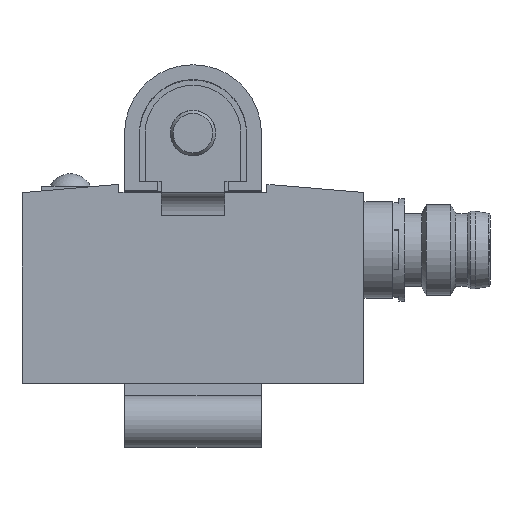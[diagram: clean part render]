
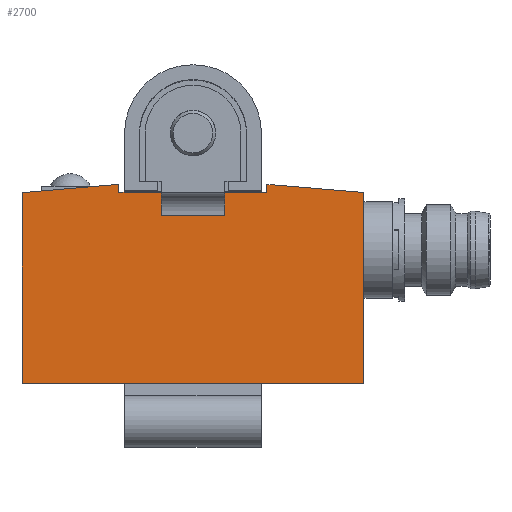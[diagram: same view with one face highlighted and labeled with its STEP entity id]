
A CAD part, top view. The second image highlights one B-rep face of the part: STEP entity #2700.
In plain terms, the highlighted planar face has unit normal (0, 0, 1).
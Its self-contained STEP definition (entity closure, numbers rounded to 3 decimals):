
#2569=CARTESIAN_POINT('',(2.72,14.764,9.23));
#2570=VERTEX_POINT('',#2569);
#2588=CARTESIAN_POINT('',(-2.868,14.764,9.23));
#2589=VERTEX_POINT('',#2588);
#2597=CARTESIAN_POINT('',(-2.868,14.764,9.23));
#2598=DIRECTION('',(1.0,0.0,0.0));
#2599=VECTOR('',#2598,5.588);
#2600=LINE('',#2597,#2599);
#2601=EDGE_CURVE('',#2589,#2570,#2600,.T.);
#2606=CARTESIAN_POINT('',(-0.072,8.582,9.23));
#2607=DIRECTION('',(0.0,0.0,1.0));
#2608=DIRECTION('',(1.0,0.0,0.0));
#2609=AXIS2_PLACEMENT_3D('',#2606,#2607,#2608);
#2610=PLANE('',#2609);
#2611=CARTESIAN_POINT('',(2.72,16.764,9.23));
#2612=VERTEX_POINT('',#2611);
#2613=CARTESIAN_POINT('',(2.72,16.764,9.23));
#2614=DIRECTION('',(0.0,-1.0,0.0));
#2615=VECTOR('',#2614,2.);
#2616=LINE('',#2613,#2615);
#2617=EDGE_CURVE('',#2612,#2570,#2616,.T.);
#2618=ORIENTED_EDGE('',*,*,#2617,.T.);
#2619=ORIENTED_EDGE('',*,*,#2601,.F.);
#2620=CARTESIAN_POINT('',(-2.868,16.764,9.23));
#2621=VERTEX_POINT('',#2620);
#2622=CARTESIAN_POINT('',(-2.868,14.764,9.23));
#2623=DIRECTION('',(0.0,1.0,0.0));
#2624=VECTOR('',#2623,2.);
#2625=LINE('',#2622,#2624);
#2626=EDGE_CURVE('',#2589,#2621,#2625,.T.);
#2627=ORIENTED_EDGE('',*,*,#2626,.T.);
#2628=CARTESIAN_POINT('',(-6.564,16.764,9.23));
#2629=VERTEX_POINT('',#2628);
#2630=CARTESIAN_POINT('',(-6.564,16.764,9.23));
#2631=DIRECTION('',(1.0,0.0,0.0));
#2632=VECTOR('',#2631,3.697);
#2633=LINE('',#2630,#2632);
#2634=EDGE_CURVE('',#2629,#2621,#2633,.T.);
#2635=ORIENTED_EDGE('',*,*,#2634,.F.);
#2636=CARTESIAN_POINT('',(-6.564,17.481,9.23));
#2637=VERTEX_POINT('',#2636);
#2638=CARTESIAN_POINT('',(-6.564,17.481,9.23));
#2639=DIRECTION('',(0.0,-1.0,0.0));
#2640=VECTOR('',#2639,0.717);
#2641=LINE('',#2638,#2640);
#2642=EDGE_CURVE('',#2637,#2629,#2641,.T.);
#2643=ORIENTED_EDGE('',*,*,#2642,.F.);
#2644=CARTESIAN_POINT('',(-15.072,16.753,9.23));
#2645=VERTEX_POINT('',#2644);
#2646=CARTESIAN_POINT('',(-15.072,16.753,9.23));
#2647=DIRECTION('',(0.996,0.085,0.0));
#2648=VECTOR('',#2647,8.539);
#2649=LINE('',#2646,#2648);
#2650=EDGE_CURVE('',#2645,#2637,#2649,.T.);
#2651=ORIENTED_EDGE('',*,*,#2650,.F.);
#2652=CARTESIAN_POINT('',(-15.072,0.0,9.23));
#2653=VERTEX_POINT('',#2652);
#2654=CARTESIAN_POINT('',(-15.072,0.0,9.23));
#2655=DIRECTION('',(0.0,1.0,0.0));
#2656=VECTOR('',#2655,16.753);
#2657=LINE('',#2654,#2656);
#2658=EDGE_CURVE('',#2653,#2645,#2657,.T.);
#2659=ORIENTED_EDGE('',*,*,#2658,.F.);
#2660=CARTESIAN_POINT('',(14.925,0.0,9.23));
#2661=VERTEX_POINT('',#2660);
#2662=CARTESIAN_POINT('',(14.925,0.0,9.23));
#2663=DIRECTION('',(-1.0,0.0,0.0));
#2664=VECTOR('',#2663,29.997);
#2665=LINE('',#2662,#2664);
#2666=EDGE_CURVE('',#2661,#2653,#2665,.T.);
#2667=ORIENTED_EDGE('',*,*,#2666,.F.);
#2668=CARTESIAN_POINT('',(14.925,16.764,9.23));
#2669=VERTEX_POINT('',#2668);
#2670=CARTESIAN_POINT('',(14.925,16.764,9.23));
#2671=DIRECTION('',(0.0,-1.0,0.0));
#2672=VECTOR('',#2671,16.764);
#2673=LINE('',#2670,#2672);
#2674=EDGE_CURVE('',#2669,#2661,#2673,.T.);
#2675=ORIENTED_EDGE('',*,*,#2674,.F.);
#2676=CARTESIAN_POINT('',(6.418,17.481,9.23));
#2677=VERTEX_POINT('',#2676);
#2678=CARTESIAN_POINT('',(6.418,17.481,9.23));
#2679=DIRECTION('',(0.996,-0.084,0.0));
#2680=VECTOR('',#2679,8.538);
#2681=LINE('',#2678,#2680);
#2682=EDGE_CURVE('',#2677,#2669,#2681,.T.);
#2683=ORIENTED_EDGE('',*,*,#2682,.F.);
#2684=CARTESIAN_POINT('',(6.418,16.764,9.23));
#2685=VERTEX_POINT('',#2684);
#2686=CARTESIAN_POINT('',(6.418,16.764,9.23));
#2687=DIRECTION('',(0.0,1.0,0.0));
#2688=VECTOR('',#2687,0.717);
#2689=LINE('',#2686,#2688);
#2690=EDGE_CURVE('',#2685,#2677,#2689,.T.);
#2691=ORIENTED_EDGE('',*,*,#2690,.F.);
#2692=CARTESIAN_POINT('',(2.72,16.764,9.23));
#2693=DIRECTION('',(1.0,0.0,0.0));
#2694=VECTOR('',#2693,3.697);
#2695=LINE('',#2692,#2694);
#2696=EDGE_CURVE('',#2612,#2685,#2695,.T.);
#2697=ORIENTED_EDGE('',*,*,#2696,.F.);
#2698=EDGE_LOOP('',(#2618,#2619,#2627,#2635,#2643,#2651,#2659,#2667,#2675,#2683,#2691,#2697));
#2699=FACE_OUTER_BOUND('',#2698,.T.);
#2700=ADVANCED_FACE('',(#2699),#2610,.T.);
